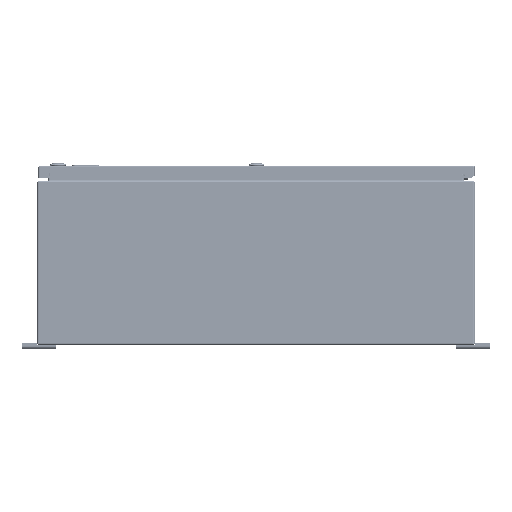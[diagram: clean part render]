
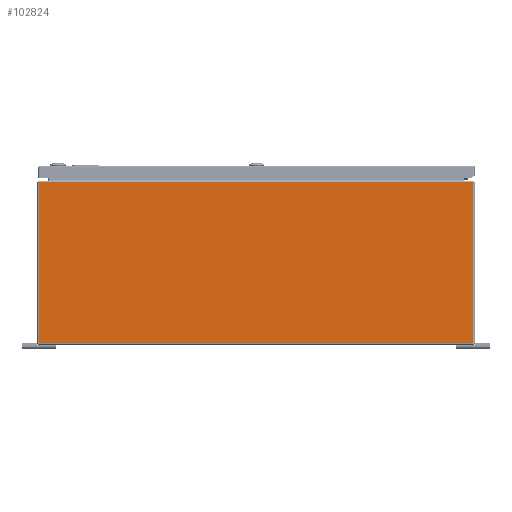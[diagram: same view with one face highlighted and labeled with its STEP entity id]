
A CAD part, left-side view. The second image highlights one B-rep face of the part: STEP entity #102824.
In plain terms, the highlighted planar face has unit normal (-1, 0, 0).
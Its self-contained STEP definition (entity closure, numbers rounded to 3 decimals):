
#6181=PLANE('',#110147);
#8815=LINE('',#145683,#16952);
#8816=LINE('',#145687,#16953);
#8817=LINE('',#145689,#16954);
#8818=LINE('',#145691,#16955);
#8819=LINE('',#145693,#16956);
#8820=LINE('',#145694,#16957);
#16952=VECTOR('',#119379,0.394);
#16953=VECTOR('',#119384,0.394);
#16954=VECTOR('',#119385,0.394);
#16955=VECTOR('',#119386,0.394);
#16956=VECTOR('',#119387,0.394);
#16957=VECTOR('',#119388,0.394);
#26756=FACE_OUTER_BOUND('',#32865,.T.);
#32865=EDGE_LOOP('',(#69802,#69803,#69804,#69805,#69806,#69807));
#43453=VERTEX_POINT('',#145665);
#43460=VERTEX_POINT('',#145682);
#43461=VERTEX_POINT('',#145686);
#43462=VERTEX_POINT('',#145688);
#43463=VERTEX_POINT('',#145690);
#43464=VERTEX_POINT('',#145692);
#53751=EDGE_CURVE('',#43453,#43460,#8815,.T.);
#53753=EDGE_CURVE('',#43461,#43453,#8816,.T.);
#53754=EDGE_CURVE('',#43461,#43462,#8817,.T.);
#53755=EDGE_CURVE('',#43463,#43462,#8818,.T.);
#53756=EDGE_CURVE('',#43464,#43463,#8819,.T.);
#53757=EDGE_CURVE('',#43464,#43460,#8820,.T.);
#69802=ORIENTED_EDGE('',*,*,#53753,.F.);
#69803=ORIENTED_EDGE('',*,*,#53754,.T.);
#69804=ORIENTED_EDGE('',*,*,#53755,.F.);
#69805=ORIENTED_EDGE('',*,*,#53756,.F.);
#69806=ORIENTED_EDGE('',*,*,#53757,.T.);
#69807=ORIENTED_EDGE('',*,*,#53751,.F.);
#102824=ADVANCED_FACE('',(#26756),#6181,.F.);
#110147=AXIS2_PLACEMENT_3D('',#145685,#119382,#119383);
#119379=DIRECTION('',(0.,0.,-1.));
#119382=DIRECTION('center_axis',(1.,0.,0.));
#119383=DIRECTION('ref_axis',(0.,0.,-1.));
#119384=DIRECTION('',(0.,-1.,0.));
#119385=DIRECTION('',(0.,1.,0.));
#119386=DIRECTION('',(0.,-1.,0.));
#119387=DIRECTION('',(0.,0.,1.));
#119388=DIRECTION('',(0.,-1.,0.));
#145665=CARTESIAN_POINT('',(-30.,-15.901,11.901));
#145682=CARTESIAN_POINT('',(-30.,-15.901,0.099));
#145683=CARTESIAN_POINT('',(-30.,-15.901,6.));
#145685=CARTESIAN_POINT('Origin',(-30.,0.,6.));
#145686=CARTESIAN_POINT('',(-30.,-15.126,11.901));
#145687=CARTESIAN_POINT('',(-30.,-7.975,11.901));
#145688=CARTESIAN_POINT('',(-30.,15.126,11.901));
#145689=CARTESIAN_POINT('',(-30.,7.955,11.901));
#145690=CARTESIAN_POINT('',(-30.,15.901,11.901));
#145691=CARTESIAN_POINT('',(-30.,-7.975,11.901));
#145692=CARTESIAN_POINT('',(-30.,15.901,0.099));
#145693=CARTESIAN_POINT('',(-30.,15.901,6.));
#145694=CARTESIAN_POINT('',(-30.,8.,0.099));
